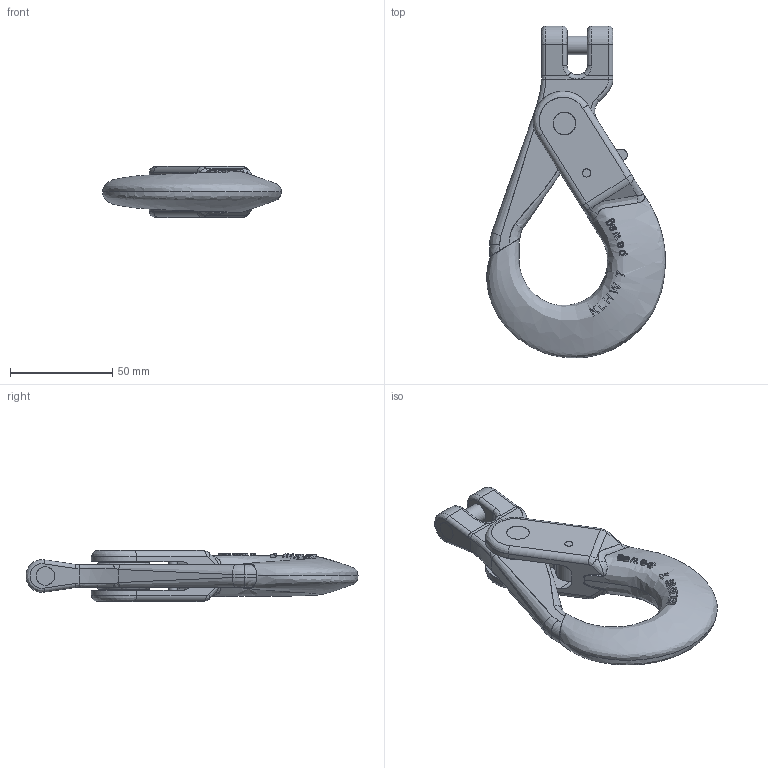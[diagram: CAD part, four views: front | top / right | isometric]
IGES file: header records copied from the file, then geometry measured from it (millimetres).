
Global section: file name: L:\users\SC\3D Kundenmodelle\UG Zg der Ableitung G100\KLHW Kundenmodell\KLHW 7_8 Kundenmodell\pewag_KLHW_7.igs; native system: NX V4.0; preprocessor: UGS NX IGES V4.0; date: 20100204.100656; units: millimetre
Bounding box: 87.62 x 162.73 x 25 mm (x, y, z)
Surface area: 31900.8 mm2 (no closed solid volume)
Topology: 0 solids, 0 shells, 321 faces, 2108 edges, 2102 vertices
Faces by surface type: bspline 311, offset 10
